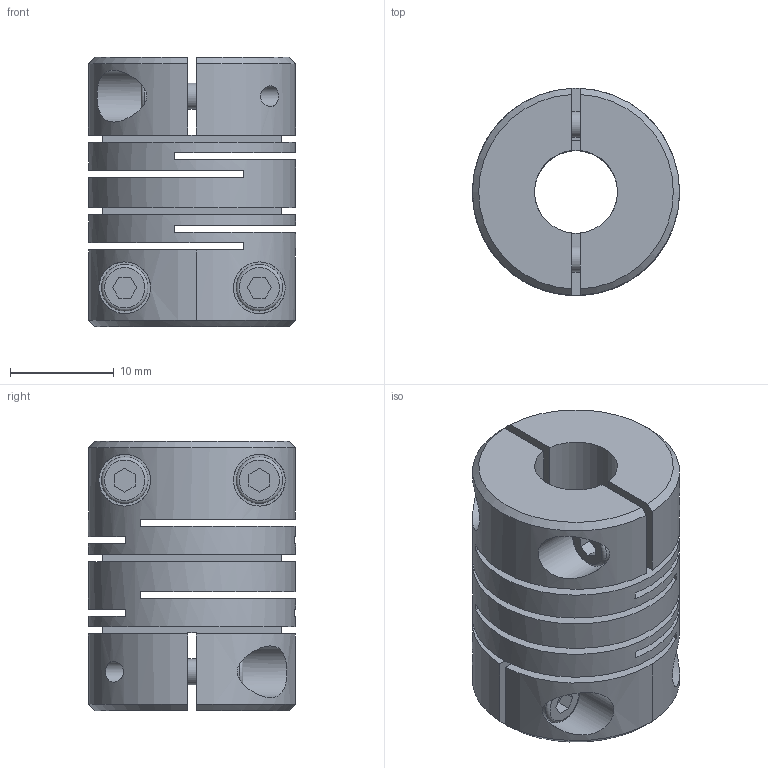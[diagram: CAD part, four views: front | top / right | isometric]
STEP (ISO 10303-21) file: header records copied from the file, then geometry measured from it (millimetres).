
FILE_DESCRIPTION (( 'STEP AP214' ), '1' );
FILE_NAME ('2246-20-B8-8-NI.step', '2022-05-27T09:30:54', ( '' ), ( '' ), 'SwSTEP 2.0', 'SolidWorks 2019', '' );
FILE_SCHEMA (( 'AUTOMOTIVE_DESIGN' ));
Length unit declared in the file: millimetre
Products named in the file (1): 2246-20-B8-8-NI
Bounding box: 20 x 20 x 26 mm (x, y, z)
Volume: 5575.8 mm3; surface area: 5881.9 mm2
Topology: 1 solids, 1 shells, 121 faces, 304 edges, 205 vertices
Faces by surface type: plane 78, cylinder 31, cone 8, torus 4
Full cylindrical faces by diameter (mm): 2.01 x4, 2.5 x4, 2.7 x4, 4.5 x4, 5 x4, 8 x5, 20 x1
Entity records: 4224 total; most frequent: CARTESIAN_POINT 933, DIRECTION 544, ORIENTED_EDGE 472, EDGE_CURVE 236, AXIS2_PLACEMENT_3D 203, EDGE_LOOP 196, VERTEX_POINT 176, FACE_OUTER_BOUND 150
